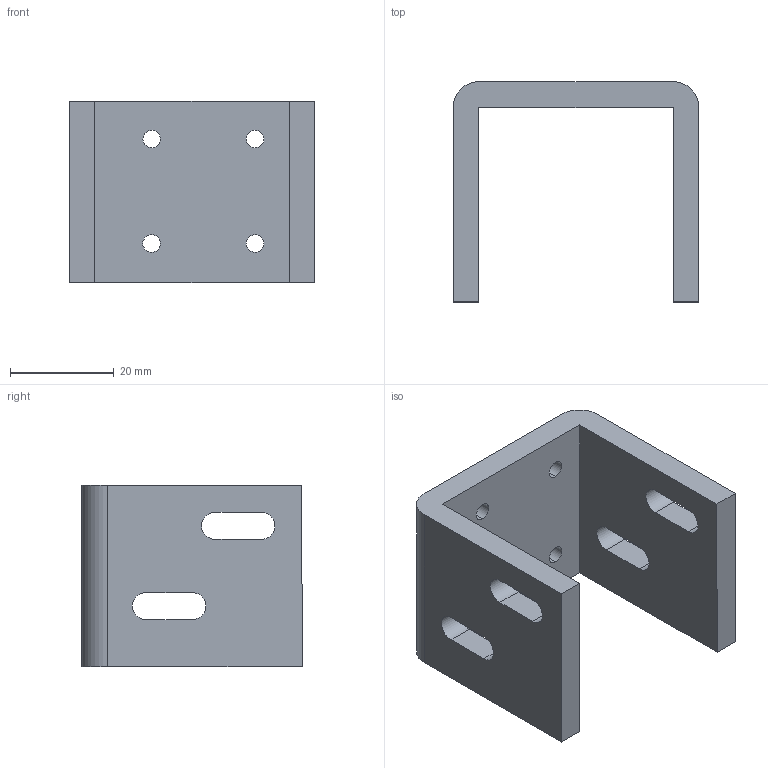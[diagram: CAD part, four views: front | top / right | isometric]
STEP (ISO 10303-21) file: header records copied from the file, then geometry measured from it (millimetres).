
FILE_DESCRIPTION(/* description */ ('STEP AP242 Edition 2','CAx-IF Rec.Pracs.---Representation and Presentation of Product Manufacturing Information (PMI)---4.0---2014-10-13','CAx-IF Rec.Pracs.---3D Tessellated Geometry---0.4---2014-09-14','2;1','CAx-IF Rec.Pracs.---User Defined Attributes---1.5---2016-08-15'),/* implementation_level */ '2;1');
FILE_NAME(/* name */ 'Assembly 1 - Part 8 (5)',/* time_stamp */ '2026-10-08T06:00:19Z',/* author */ (''),/* organization */ (''),/* preprocessor_version */ 'ST-DEVELOPER v20',/* originating_system */ 'ONSHAPE BY PTC INC, 1.221',/* authorisation */ ' ');
FILE_SCHEMA (('AP242_MANAGED_MODEL_BASED_3D_ENGINEERING_MIM_LF { 1 0 10303 442 3 1 4 }'));
Length unit declared in the file: metre
Products named in the file (1): Part 8
Bounding box: 47.5 x 42.59 x 35 mm (x, y, z)
Volume: 19533.6 mm3; surface area: 10267.6 mm2
Topology: 1 solids, 1 shells, 36 faces, 102 edges, 68 vertices
Faces by surface type: bspline 36
Entity records: 1274 total; most frequent: CARTESIAN_POINT 395, ORIENTED_EDGE 204, DIRECTION 132, EDGE_CURVE 102, VERTEX_POINT 68, LINE 58, VECTOR 58, EDGE_LOOP 52
